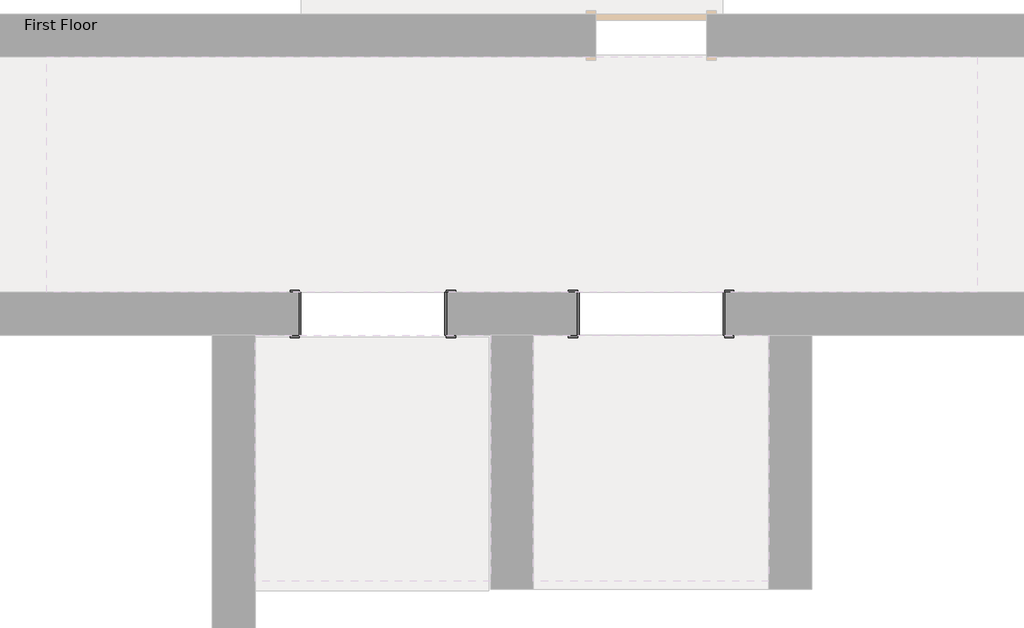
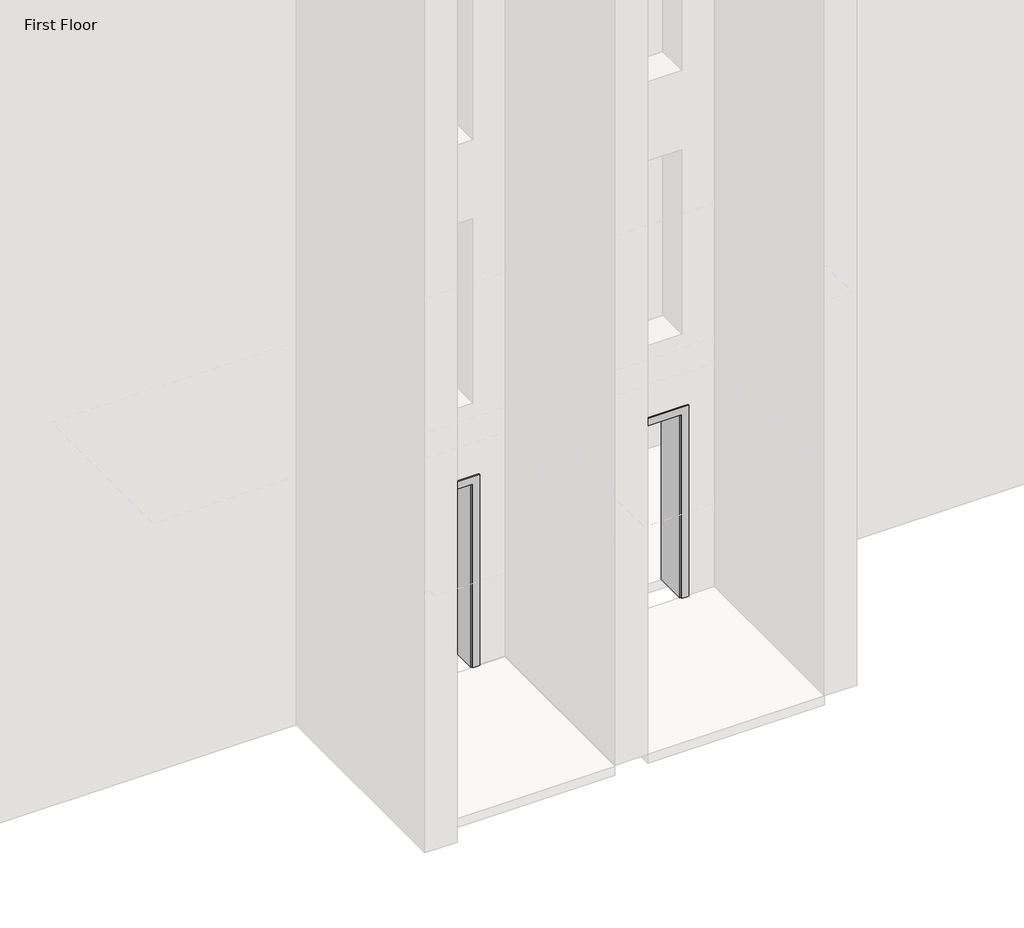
# One storey, part 5 of 5: 2 proxies.
"""IFC4 building model written with IfcOpenShell, lengths in millimetres."""

from ifc_helpers import new_model, si_unit, origin, place, context, project, spatial, transform, mapped, element, save
from components import proxy_c3589814

model = new_model("IFC4")

# Units and contexts
model_context = context("Model", 3, world=origin())
ifc_project = project(units=[si_unit("LENGTHUNIT", "METRE", prefix="MILLI")], contexts=[model_context])

# Site, building, storey
site = spatial("IfcSite", under=ifc_project)
building = spatial("IfcBuilding", under=site)
storey = spatial("IfcBuildingStorey", under=building, Name="First Floor", Elevation=0.0)

# Proxies
placement = place(None, origin())
proxy_shape = proxy_c3589814(model_context)
element("IfcBuildingElementProxy", 1, Name="Opening-Cased : 48\" x 84\"", ObjectType="Opening-Cased : 48\" x 84\"", at=placement, inside=storey, context=model_context, shape_type="MappedRepresentation", body=[
    mapped(proxy_shape, transform((-7396.8036255, 2429.9758812, 0.0), x_axis=(-1.0, 0.0, 0.0), y_axis=(0.0, -1.0, 0.0), z_axis=(0.0, 0.0, 1.0))),
])
element("IfcBuildingElementProxy", 2, Name="Opening-Cased : 48\" x 84\"", ObjectType="Opening-Cased : 48\" x 84\"", at=placement, inside=storey, context=model_context, shape_type="MappedRepresentation", body=[
    mapped(proxy_shape, transform((-5110.8036255, 2429.9758812, 0.0), x_axis=(-1.0, 0.0, 0.0), y_axis=(0.0, -1.0, 0.0), z_axis=(0.0, 0.0, 1.0))),
])

save(model, "model.ifc")
